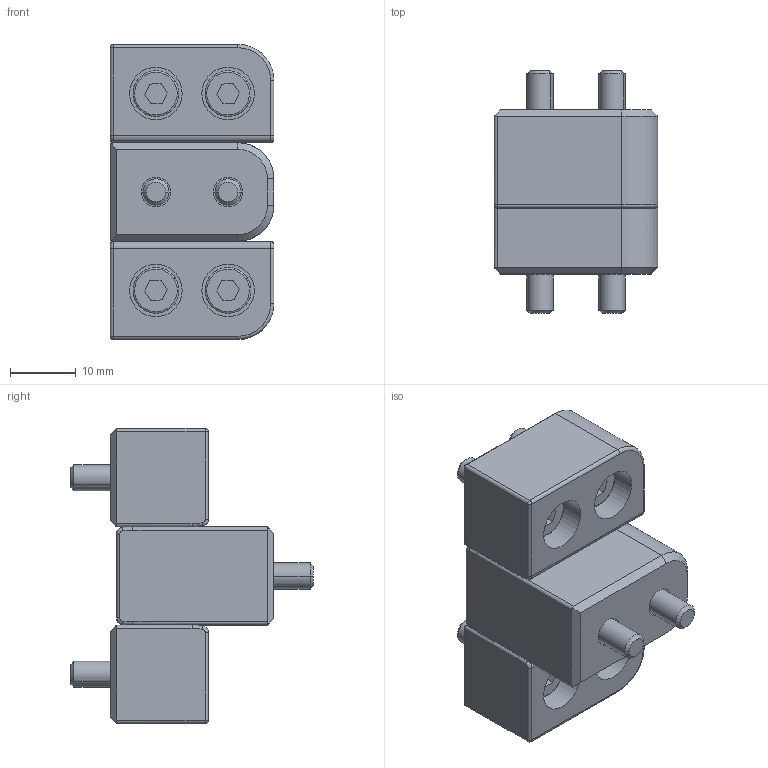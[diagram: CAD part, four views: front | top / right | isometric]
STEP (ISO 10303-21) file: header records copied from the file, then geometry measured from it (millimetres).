
FILE_DESCRIPTION (( 'STEP AP203' ), '1' );
FILE_NAME ('GLM25X45.step', '2015-11-05T22:07:16', ( '' ), ( '' ), 'SwSTEP 2.0', 'SolidWorks 2014', '' );
FILE_SCHEMA (( 'CONFIG_CONTROL_DESIGN' ));
Length unit declared in the file: millimetre
Products named in the file (6): GLM25X45 RH; M4_X_14; GLM25X45 MALE; M4_X_25; GLM25X45 LH; GLM25X45
Assembly tree (9 placements, depth 2):
  GLM25X45
    GLM25X45 MALE
    GLM25X45 RH
    GLM25X45 LH
    M4_X_14  x4
    M4_X_25  x2
Bounding box: 25 x 37 x 45 mm (x, y, z)
Volume: 18653.3 mm3; surface area: 10474 mm2
Topology: 9 solids, 9 shells, 483 faces, 1019 edges, 658 vertices
Faces by surface type: cylinder 253, plane 184, torus 28, cone 16, sphere 2
Entity records: 12017 total; most frequent: DIRECTION 2179, CARTESIAN_POINT 1972, ORIENTED_EDGE 1730, AXIS2_PLACEMENT_3D 919, EDGE_CURVE 865, VERTEX_POINT 562, EDGE_LOOP 521, CIRCLE 496
